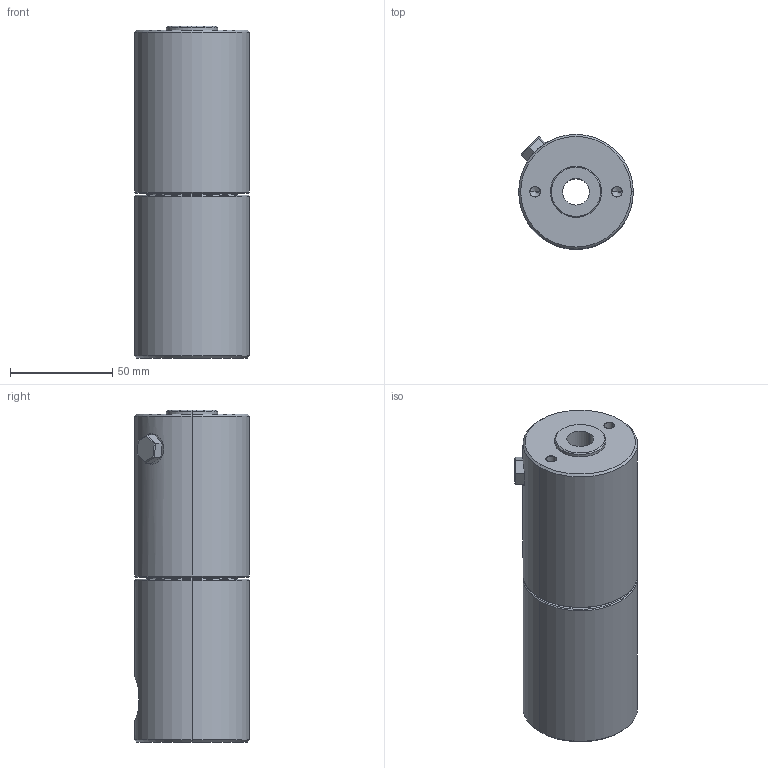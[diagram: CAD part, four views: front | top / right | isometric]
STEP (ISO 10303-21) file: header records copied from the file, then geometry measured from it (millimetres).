
FILE_DESCRIPTION (( 'STEP AP203' ), '1' );
FILE_NAME ('4610-212.STEP', '2016-01-29T10:18:28', ( '' ), ( '' ), 'SwSTEP 2.0', 'SolidWorks 2015', '' );
FILE_SCHEMA (( 'CONFIG_CONTROL_DESIGN' ));
Length unit declared in the file: millimetre
Products named in the file (1): 4610-212
Bounding box: 56 x 56 x 162 mm (x, y, z)
Volume: 369458.5 mm3; surface area: 42720.1 mm2
Topology: 1 solids, 2 shells, 67 faces, 144 edges, 82 vertices
Faces by surface type: cone 22, plane 21, cylinder 20, torus 4
Entity records: 1981 total; most frequent: CARTESIAN_POINT 454, DIRECTION 328, ORIENTED_EDGE 272, EDGE_CURVE 136, AXIS2_PLACEMENT_3D 128, VERTEX_POINT 82, EDGE_LOOP 78, LINE 72
